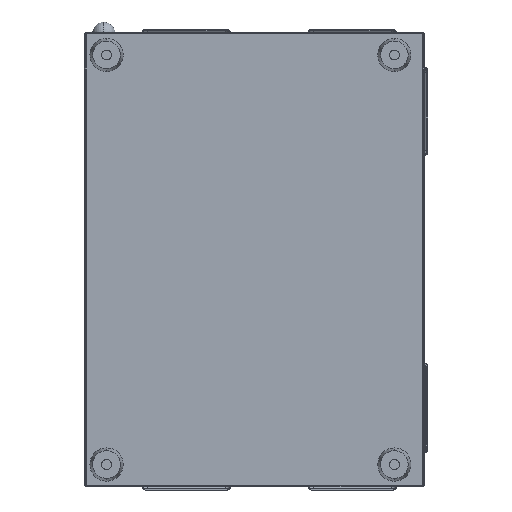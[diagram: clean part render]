
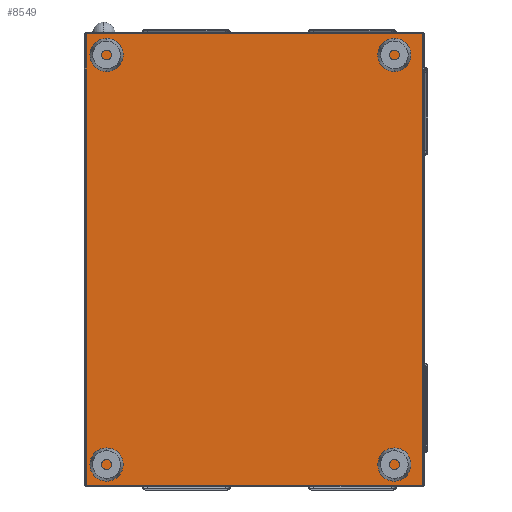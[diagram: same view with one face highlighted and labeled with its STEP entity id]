
A CAD part, front view. The second image highlights one B-rep face of the part: STEP entity #8549.
In plain terms, the highlighted planar face has unit normal (0, -1, 0).
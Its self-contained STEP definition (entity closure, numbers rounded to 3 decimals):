
#2561 = DIRECTION ( 'NONE',  ( 0., 0., -1. ) ) ;
#3132 = AXIS2_PLACEMENT_3D ( 'NONE', #23565, #18848, #21636 ) ;
#3320 = DIRECTION ( 'NONE',  ( -1., 0., 0. ) ) ;
#3855 = CARTESIAN_POINT ( 'NONE',  ( 0.737, -1., -1. ) ) ;
#4551 = CARTESIAN_POINT ( 'NONE',  ( 0.737, -1., 0. ) ) ;
#4784 = ORIENTED_EDGE ( 'NONE', *, *, #34197, .T. ) ;
#4849 = VECTOR ( 'NONE', #2561, 1000. ) ;
#6979 = VERTEX_POINT ( 'NONE', #32993 ) ;
#7798 = LINE ( 'NONE', #26425, #4849 ) ;
#8222 = FACE_OUTER_BOUND ( 'NONE', #34327, .T. ) ;
#8549 = ADVANCED_FACE ( 'NONE', ( #8222 ), #11027, .T. ) ;
#9607 = EDGE_CURVE ( 'NONE', #33486, #23535, #7798, .T. ) ;
#10011 = ORIENTED_EDGE ( 'NONE', *, *, #21796, .F. ) ;
#11027 = PLANE ( 'NONE',  #3132 ) ;
#11369 = DIRECTION ( 'NONE',  ( -1., 0., 0. ) ) ;
#12663 = EDGE_CURVE ( 'NONE', #14775, #6979, #18272, .T. ) ;
#14775 = VERTEX_POINT ( 'NONE', #3855 ) ;
#16053 = LINE ( 'NONE', #18491, #20625 ) ;
#18272 = LINE ( 'NONE', #4551, #25717 ) ;
#18491 = CARTESIAN_POINT ( 'NONE',  ( 0., -1., -1. ) ) ;
#18848 = DIRECTION ( 'NONE',  ( 0., -1., 0. ) ) ;
#20625 = VECTOR ( 'NONE', #11369, 1000. ) ;
#21636 = DIRECTION ( 'NONE',  ( 0., 0., -1. ) ) ;
#21796 = EDGE_CURVE ( 'NONE', #23535, #6979, #30169, .T. ) ;
#22431 = ORIENTED_EDGE ( 'NONE', *, *, #9607, .F. ) ;
#23426 = ORIENTED_EDGE ( 'NONE', *, *, #12663, .T. ) ;
#23535 = VERTEX_POINT ( 'NONE', #33797 ) ;
#23565 = CARTESIAN_POINT ( 'NONE',  ( 0., -1., 0. ) ) ;
#24735 = CARTESIAN_POINT ( 'NONE',  ( 0., -1., -409. ) ) ;
#25717 = VECTOR ( 'NONE', #25775, 1000. ) ;
#25775 = DIRECTION ( 'NONE',  ( 0., 0., -1. ) ) ;
#26425 = CARTESIAN_POINT ( 'NONE',  ( 304., -1., 0. ) ) ;
#27039 = VECTOR ( 'NONE', #3320, 1000. ) ;
#30169 = LINE ( 'NONE', #24735, #27039 ) ;
#31542 = CARTESIAN_POINT ( 'NONE',  ( 304., -1., -1. ) ) ;
#32993 = CARTESIAN_POINT ( 'NONE',  ( 0.737, -1., -409. ) ) ;
#33486 = VERTEX_POINT ( 'NONE', #31542 ) ;
#33797 = CARTESIAN_POINT ( 'NONE',  ( 304., -1., -409. ) ) ;
#34197 = EDGE_CURVE ( 'NONE', #33486, #14775, #16053, .T. ) ;
#34327 = EDGE_LOOP ( 'NONE', ( #4784, #23426, #10011, #22431 ) ) ;
